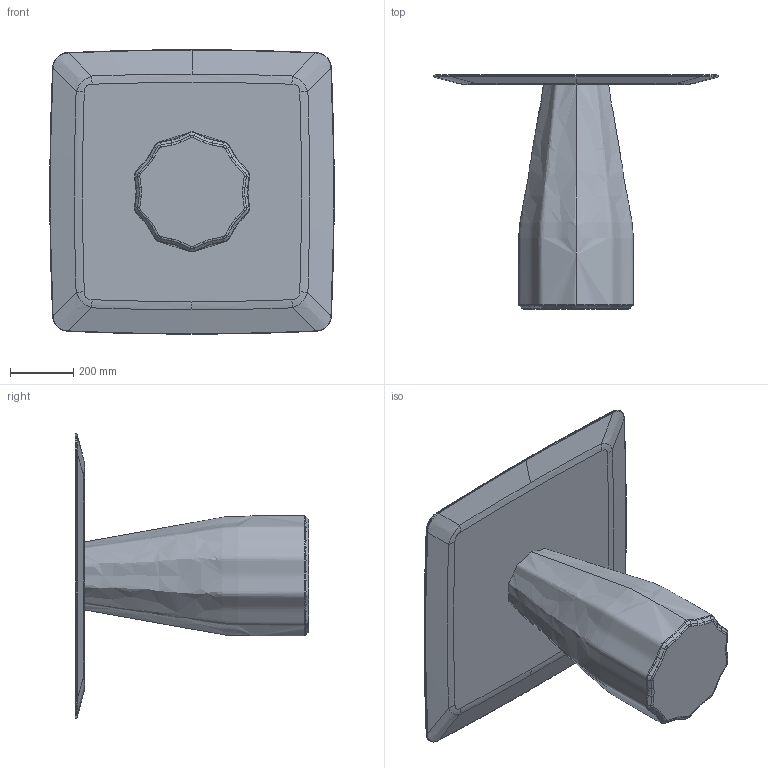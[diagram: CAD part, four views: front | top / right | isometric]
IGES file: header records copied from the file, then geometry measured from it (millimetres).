
Start section: SolidWorks IGES file using analytic representation for surfaces
Global section: file name: Z:\01-VICCARBE\VICCARBE TECNICO 2018\6.-Studio VCCB\Otros\Burin\Modelado\WEB\Nueva carpeta\BurinH74C90.IGS; native system: SolidWorks 2013; preprocessor: SolidWorks 2013; author: Usuario; date: 190219.125653; units: millimetre
Bounding box: 899.19 x 740 x 899.6 mm (x, y, z)
Volume: 76680179.1 mm3; surface area: 2469043.4 mm2
Topology: 2 solids, 2 shells, 179 faces, 451 edges, 276 vertices
Faces by surface type: bspline 142, revolution 33, plane 4
